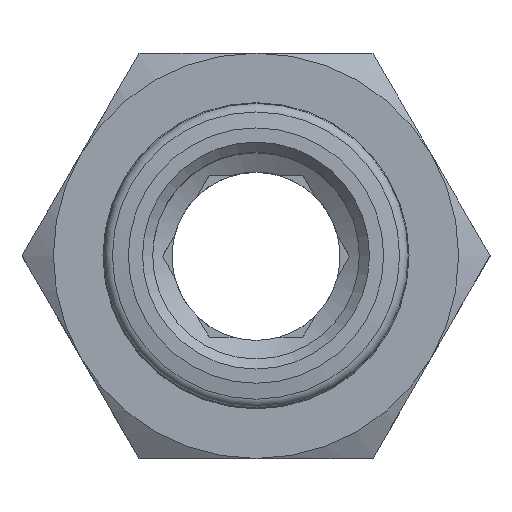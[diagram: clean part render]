
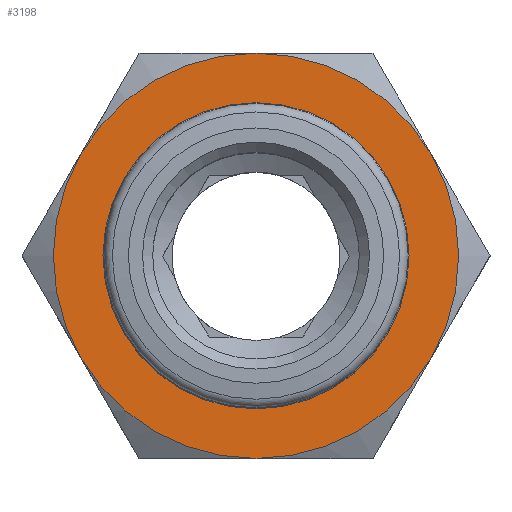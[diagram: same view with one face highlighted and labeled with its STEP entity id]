
A CAD part, top view. The second image highlights one B-rep face of the part: STEP entity #3198.
In plain terms, the highlighted planar face has unit normal (0, 0, 1) as drawn and (0, 1, 0) by its records, which use the part's own axes.
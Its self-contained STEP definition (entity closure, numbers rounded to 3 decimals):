
#935=PLANE('',#3062);
#1043=ORIENTED_EDGE('',*,*,#1434,.F.);
#1044=ORIENTED_EDGE('',*,*,#1435,.F.);
#1045=ORIENTED_EDGE('',*,*,#1436,.F.);
#1046=ORIENTED_EDGE('',*,*,#1437,.F.);
#1047=ORIENTED_EDGE('',*,*,#1438,.F.);
#1048=ORIENTED_EDGE('',*,*,#1439,.F.);
#1049=ORIENTED_EDGE('',*,*,#1433,.F.);
#1252=CIRCLE('',#3061,7.55);
#1253=CIRCLE('',#3063,10.);
#1254=CIRCLE('',#3064,10.);
#1255=CIRCLE('',#3065,10.);
#1256=CIRCLE('',#3066,10.);
#1257=CIRCLE('',#3067,10.);
#1258=CIRCLE('',#3068,10.);
#1330=VERTEX_POINT('',#2817);
#1331=VERTEX_POINT('',#2820);
#1332=VERTEX_POINT('',#2821);
#1333=VERTEX_POINT('',#2823);
#1334=VERTEX_POINT('',#2825);
#1335=VERTEX_POINT('',#2827);
#1336=VERTEX_POINT('',#2829);
#1433=EDGE_CURVE('',#1330,#1330,#1252,.T.);
#1434=EDGE_CURVE('',#1331,#1332,#1253,.T.);
#1435=EDGE_CURVE('',#1333,#1331,#1254,.T.);
#1436=EDGE_CURVE('',#1334,#1333,#1255,.T.);
#1437=EDGE_CURVE('',#1335,#1334,#1256,.T.);
#1438=EDGE_CURVE('',#1336,#1335,#1257,.T.);
#1439=EDGE_CURVE('',#1332,#1336,#1258,.T.);
#1542=EDGE_LOOP('',(#1043,#1044,#1045,#1046,#1047,#1048));
#1543=EDGE_LOOP('',(#1049));
#1652=FACE_BOUND('',#1542,.T.);
#1653=FACE_BOUND('',#1543,.T.);
#2445=DIRECTION('',(0.,1.,0.));
#2446=DIRECTION('',(0.,0.,-7.55));
#2447=DIRECTION('',(0.,1.,0.));
#2448=DIRECTION('',(1.,0.,0.));
#2449=DIRECTION('',(0.,-1.,0.));
#2450=DIRECTION('',(0.,0.,10.));
#2451=DIRECTION('',(0.,-1.,0.));
#2452=DIRECTION('',(8.66,0.,5.));
#2453=DIRECTION('',(0.,-1.,0.));
#2454=DIRECTION('',(8.66,0.,-5.));
#2455=DIRECTION('',(0.,-1.,0.));
#2456=DIRECTION('',(0.,0.,-10.));
#2457=DIRECTION('',(0.,-1.,0.));
#2458=DIRECTION('',(-8.66,0.,-5.));
#2459=DIRECTION('',(0.,-1.,0.));
#2460=DIRECTION('',(-8.66,0.,5.));
#2817=CARTESIAN_POINT('',(0.,18.5,-7.55));
#2818=CARTESIAN_POINT('',(0.,18.5,0.));
#2819=CARTESIAN_POINT('',(0.,18.5,10.));
#2820=CARTESIAN_POINT('',(0.,18.5,10.));
#2821=CARTESIAN_POINT('',(-8.66,18.5,5.));
#2822=CARTESIAN_POINT('',(0.,18.5,0.));
#2823=CARTESIAN_POINT('',(8.66,18.5,5.));
#2824=CARTESIAN_POINT('',(0.,18.5,0.));
#2825=CARTESIAN_POINT('',(8.66,18.5,-5.));
#2826=CARTESIAN_POINT('',(0.,18.5,0.));
#2827=CARTESIAN_POINT('',(0.,18.5,-10.));
#2828=CARTESIAN_POINT('',(0.,18.5,0.));
#2829=CARTESIAN_POINT('',(-8.66,18.5,-5.));
#2830=CARTESIAN_POINT('',(0.,18.5,0.));
#2831=CARTESIAN_POINT('',(0.,18.5,0.));
#3061=AXIS2_PLACEMENT_3D('',#2818,#2445,#2446);
#3062=AXIS2_PLACEMENT_3D('',#2819,#2447,#2448);
#3063=AXIS2_PLACEMENT_3D('',#2822,#2449,#2450);
#3064=AXIS2_PLACEMENT_3D('',#2824,#2451,#2452);
#3065=AXIS2_PLACEMENT_3D('',#2826,#2453,#2454);
#3066=AXIS2_PLACEMENT_3D('',#2828,#2455,#2456);
#3067=AXIS2_PLACEMENT_3D('',#2830,#2457,#2458);
#3068=AXIS2_PLACEMENT_3D('',#2831,#2459,#2460);
#3198=ADVANCED_FACE('',(#1652,#1653),#935,.T.);
